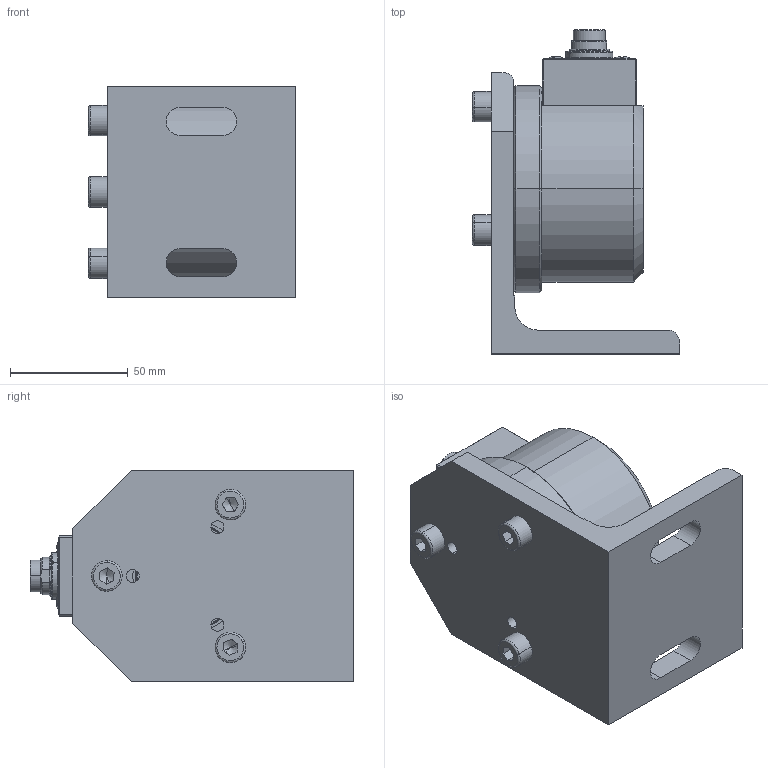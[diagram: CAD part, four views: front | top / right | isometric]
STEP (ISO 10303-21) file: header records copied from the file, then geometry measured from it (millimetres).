
FILE_DESCRIPTION (( 'STEP AP214' ), '1' );
FILE_NAME ('DRT2-50-100 mit Haltewinkel.STEP', '2020-02-12T08:09:15', ( 'nsi' ), ( '' ), 'SwSTEP 2.0', 'SolidWorks 2020', '' );
FILE_SCHEMA (( 'AUTOMOTIVE_DESIGN' ));
Length unit declared in the file: millimetre
Products named in the file (1): DRT2-50-100 mit Haltewinkel
Bounding box: 88 x 137.6 x 90 mm (x, y, z)
Surface area: 71352.7 mm2 (no closed solid volume)
Topology: 0 solids, 13 shells, 251 faces, 728 edges, 488 vertices
Faces by surface type: plane 109, cylinder 66, cone 41, torus 31, sphere 4
Entity records: 11354 total; most frequent: CARTESIAN_POINT 1791, DIRECTION 1516, ORIENTED_EDGE 1277, EDGE_CURVE 722, AXIS2_PLACEMENT_3D 596, VERTEX_POINT 488, CIRCLE 344, LINE 324
